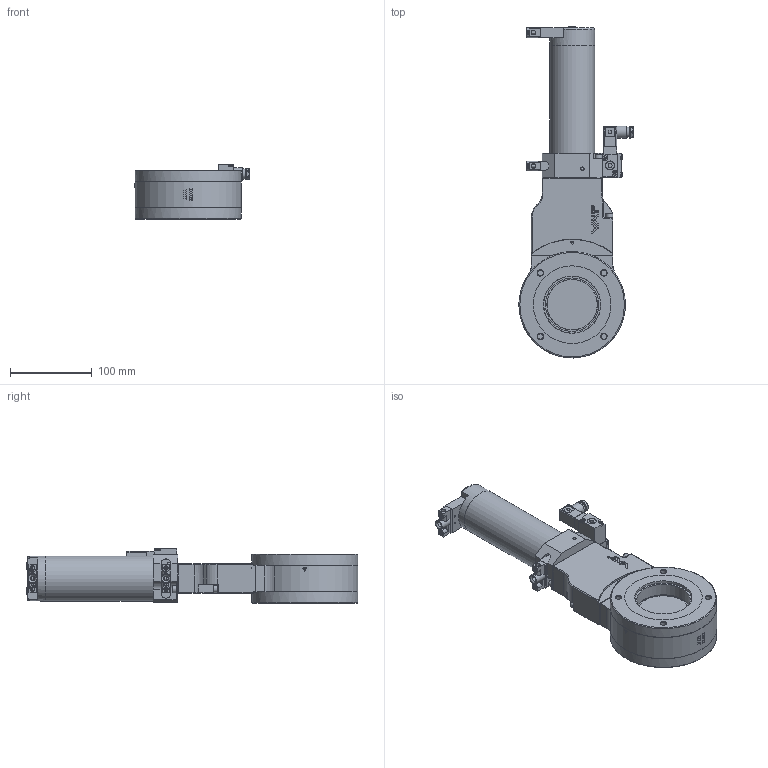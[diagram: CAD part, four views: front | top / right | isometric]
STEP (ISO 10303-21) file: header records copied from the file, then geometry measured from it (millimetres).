
FILE_DESCRIPTION(/* description */ (''),/* implementation_level */ '2;1');
FILE_NAME(/* name */ '1543744252_203.stp',/* time_stamp */ '2020-02-26T15:18:28+01:00',/* author */ (''),/* organization */ (''),/* preprocessor_version */ 'ST-DEVELOPER v16',/* originating_system */ 'SIEMENS PLM Software NX 11.0',/* authorisation */ '');
FILE_SCHEMA (('AP203_CONFIGURATION_CONTROLLED_3D_DESIGN_OF_MECHANICAL_PARTS_AND_ASSEMBLIES_MIM_LF { 1 0 10303 403 2 1 2}'));
Length unit declared in the file: millimetre
Products named in the file (41): n-5100-231_2.1; 257468; 257467; N-6121-027.2; 251093.3; 92838-01_2.2; 80477-01.1; N-7100-005_2.1; 80478-01.1; N-6195-007.2; 93115-01.1; 87105-01.1; 73662-01.1; 467882; 437235; 252351.1; 488875; 251289.1; 77379-01.1; N-6016-478.2; N-7557-016_1.1; N-7557-018.1; N-7557-016_2.1; N-6024-524.1; N-5018-005.1; 253166; 224793.1; 218187.1; 224797.1; n-6134-407; 253165.8; 257595_NX-ARRAGMNTCLOSE (verriegelt); 1014958_MODELNX-ARRAGMNTCLOSE (verriegelt); 251092.4; 87090-R1.22_NX-ARRAGMNToffen_213913 Hub 4,45mm (mit Feder); 252348_NX-ARRAGMNT00_CLOSE HO (Innenteile+Stange unterdrueckt); 78856-R1.3; 78855-r1.9_NX-ARRAGMNTMassbild, alle Innenteile unterdrueckt; N-7557-016_3.1_MODELNX-ARRAGMNTArrangement 1; 94800-r1.7_NX-ARRAGMNTKONFIG1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
Assembly tree (53 placements, depth 4):
  253898
    253165.8
    94800-r1.7_NX-ARRAGMNTKONFIG1
      N-5018-005.1  x2
      N-6024-524.1  x6
      N-7557-016_2.1
      N-7557-018.1
      N-7557-016_1.1
      N-7557-016_3.1_MODELNX-ARRAGMNTArrangement 1
        437235
        467882
    78855-r1.9_NX-ARRAGMNTMassbild, alle Innenteile unterdrueckt  x2
      N-6016-478.2
      78856-R1.3
        73662-01.1
      77379-01.1
    n-6134-407  x2
    224797.1  x2
    218187.1
    224793.1
    252348_NX-ARRAGMNT00_CLOSE HO (Innenteile+Stange unterdrueckt)
      87090-R1.22_NX-ARRAGMNToffen_213913 Hub 4,45mm (mit Feder)  x2
        87105-01.1
        93115-01.1
        N-6195-007.2
        80478-01.1
        N-7100-005_2.1
        80477-01.1
        92838-01_2.2
      251289.1
      488875  x2
      251092.4
        251093.3
        N-6121-027.2  x2
      252351.1
    1014958_MODELNX-ARRAGMNTCLOSE (verriegelt)
      257595_NX-ARRAGMNTCLOSE (verriegelt)
        257467
        257468
        n-5100-231_2.1
    253166
Bounding box: 140.05 x 406.68 x 66.3 mm (x, y, z)
Volume: 992152.3 mm3; surface area: 263722.3 mm2
Topology: 53 solids, 54 shells, 1980 faces, 5112 edges, 3394 vertices
Faces by surface type: plane 1130, cylinder 481, cone 106, bspline 96, torus 78, extrusion 68, sphere 19, revolution 2
Full cylindrical faces by diameter (mm): 1.875 x2, 2.115 x8, 2.475 x6, 2.5 x6, 2.56 x2, 2.575 x2, 3 x13, 3.2 x2, 3.3 x2, 3.4 x4, 3.5 x13, 4 x2, 4.2 x11, 4.22 x1, 4.3 x2, 4.7 x4, 5 x15, 5.1 x3, 5.3 x2, 5.4 x1, 5.5 x6, 5.6 x2, 5.65 x2, 5.7 x2, 5.8 x4, 6 x8, 6.475 x2, 6.511 x2, 6.8 x10, 6.98 x2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
Entity records: 61872 total; most frequent: CARTESIAN_POINT 18706, ORIENTED_EDGE 7622, DIRECTION 6932, EDGE_CURVE 3811, VERTEX_POINT 2715, AXIS2_PLACEMENT_3D 2530, EDGE_LOOP 2077, VECTOR 1871
